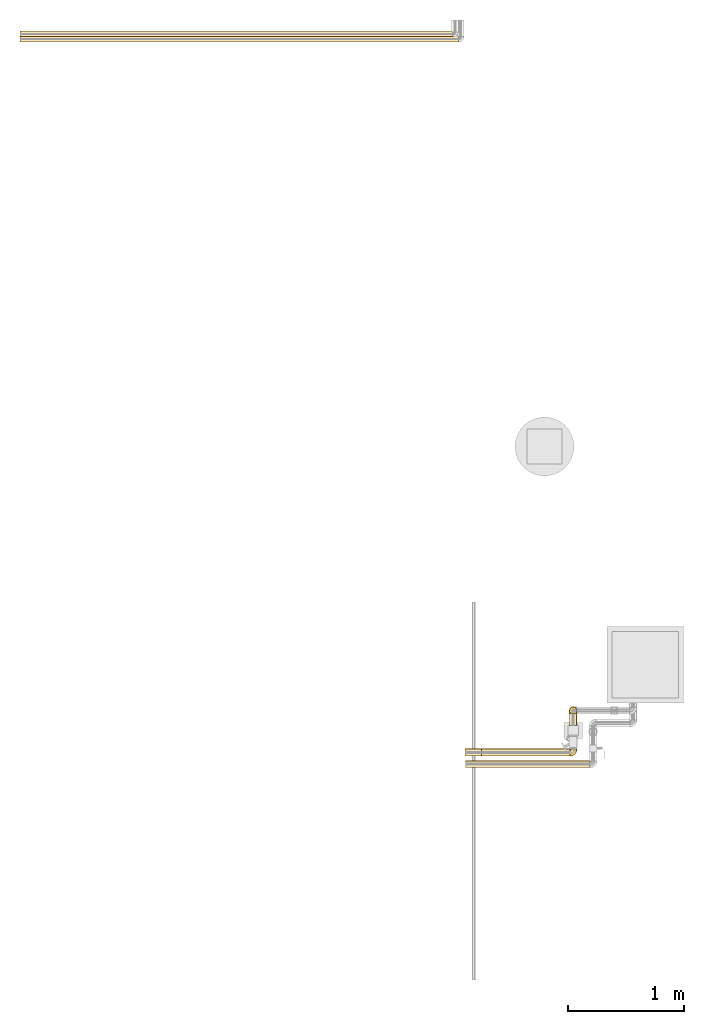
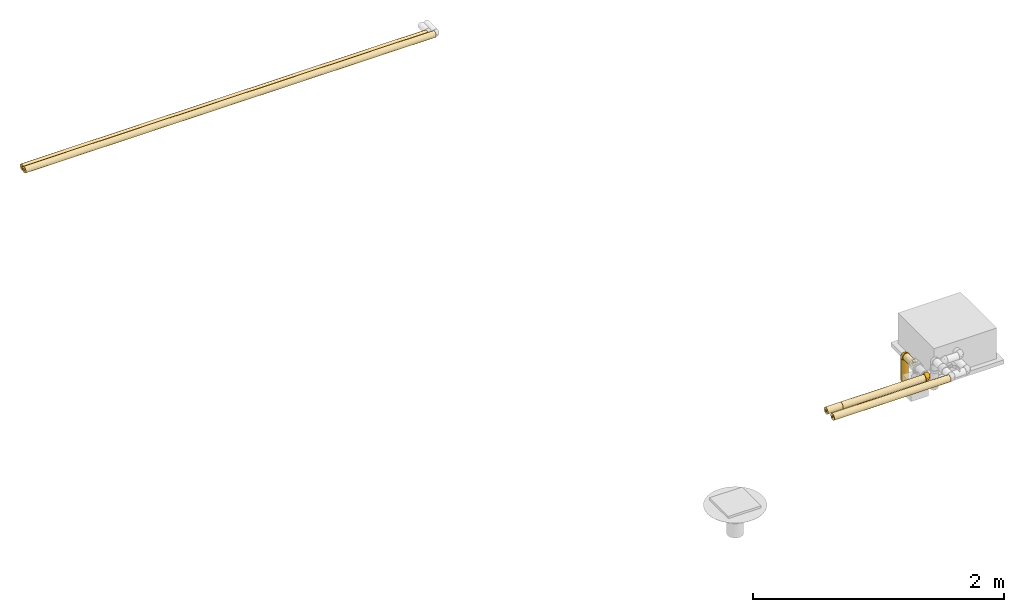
# One storey, part 1 of 13: 9 coverings.
"""IFC2X3 building model written with IfcOpenShell, lengths in millimetres."""

from ifc_helpers import new_model, entity, si_unit, converted_unit, derived_unit, direction, frame, origin_with_axes, origin_2d_with_axis, place, context, subcontext, project, spatial, hollow_circle, extrude, open_shell, surface_model, source, transform, mapped, element, save


model = new_model("IFC2X3")

# Units and contexts
model_context = context("Model", 3, precision=0.01, world=frame((0.0, 4.29681676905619e-09, 0.0)), true_north=direction((4.01073788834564e-13, 1.0)))
plan_context = context("Plan", 3, precision=0.01, world=frame((0.0, 4.29681676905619e-09, 0.0)), true_north=direction((4.01073788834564e-13, 1.0)))
body_context = subcontext(model_context, "Body", "Model", "MODEL_VIEW")
ifc_project = project(units=[converted_unit("PLANEANGLEUNIT", "DEGREE", entity("IfcPositiveLengthMeasure", 0.0174532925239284), si_unit("PLANEANGLEUNIT", "RADIAN"), dimensions=[0, 0, 0, 0, 0, 0, 0]), si_unit("AREAUNIT", "SQUARE_METRE"), si_unit("LENGTHUNIT", "METRE", prefix="MILLI"), si_unit("MASSUNIT", "GRAM", prefix="KILO"), si_unit("POWERUNIT", "WATT"), si_unit("PRESSUREUNIT", "PASCAL"), si_unit("FORCEUNIT", "NEWTON", prefix="KILO"), si_unit("ELECTRICVOLTAGEUNIT", "VOLT"), si_unit("ELECTRICCURRENTUNIT", "AMPERE"), si_unit("THERMODYNAMICTEMPERATUREUNIT", "DEGREE_CELSIUS"), si_unit("TIMEUNIT", "SECOND"), si_unit("VOLUMEUNIT", "CUBIC_METRE"), derived_unit("LINEARVELOCITYUNIT", [(si_unit("LENGTHUNIT", "METRE"), 1), (si_unit("TIMEUNIT", "SECOND"), -1)]), derived_unit("VOLUMETRICFLOWRATEUNIT", [(si_unit("VOLUMEUNIT", "CUBIC_METRE"), 1), (si_unit("TIMEUNIT", "SECOND"), -1)]), derived_unit("THERMALTRANSMITTANCEUNIT", [(si_unit("POWERUNIT", "WATT"), 1), (si_unit("THERMODYNAMICTEMPERATUREUNIT", "KELVIN"), -1), (si_unit("AREAUNIT", "SQUARE_METRE"), -1)]), derived_unit("SOUNDPRESSUREUNIT", [(si_unit("PRESSUREUNIT", "PASCAL"), 1)])], contexts=[model_context, plan_context])

# Site, building, storey
site_placement = place(None, frame((0.0, -4.29681676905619e-09, 0.0), z_axis=(0.0, 0.0, 1.0), x_axis=(1.0, 0.0, 0.0)))
site = spatial("IfcSite", under=ifc_project, at=site_placement, Name="ENGM", CompositionType="ELEMENT")
building_placement = place(site_placement, frame((0.0, 4.29681676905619e-09, 0.0), z_axis=(0.0, 0.0, 1.0), x_axis=(1.0, 0.0, 0.0)))
building = spatial("IfcBuilding", under=site, at=building_placement, Name="TI", CompositionType="ELEMENT")
storey_placement = place(building_placement, frame((0.0, 0.0, 210900.0), z_axis=(0.0, 0.0, 1.0), x_axis=(1.0, 0.0, 0.0)))
storey = spatial("IfcBuildingStorey", under=building, at=storey_placement, Name="Nivå F", CompositionType="ELEMENT", Elevation=210900.0)

# Coverings
shared_shape_1 = source(origin_with_axes(), body_context, "Body", "SurfaceModel", [
    surface_model("IfcShellBasedSurfaceModel", [(26.89082, 26.8, -21.4533), (34.4, 26.8, 0.0), (33.53665, 26.8, -7.65854), (30.99072, 26.8, -14.93103), (-26.583, 26.8, -21.83356), (21.44304, 26.8, -26.899), (14.92062, 26.8, -30.99573), (-14.70935, 26.8, -31.09655), (-21.16359, 26.8, -27.11941), (-7.53901, 26.8, -33.56372), (0.0, 26.8, -34.4), (7.65035, 26.8, -33.53852), (-26.8, 26.583, -21.83356), (-26.8, 21.15599, -27.12534), (-26.8, 14.7018, -31.10012), (-26.8, -8.90338, 33.22785), (-26.8, 26.583, 21.83356), (-26.8, 7.53379, -33.56489), (-26.8, 21.15599, 27.12534), (-26.8, 14.7018, 31.10012), (-26.8, 7.53379, 33.56489), (-26.8, 0.0, 34.4), (-26.8, -29.79127, 17.2), (-26.8, 0.0, -34.4), (-26.8, -8.90338, -33.22785), (-26.8, -17.2, -29.79127), (-26.8, -24.32447, -24.32447), (-26.8, -29.79127, -17.2), (-26.8, -34.4, 0.0), (-26.8, -33.22785, -8.90338), (-26.8, -17.2, 29.79127), (-26.8, -24.32447, 24.32447), (-26.8, -33.22785, 8.90338), (-26.64656, 26.64656, 21.83356), (-26.64656, 26.64656, -21.83356), (-26.583, 26.8, 21.83356), (-3.59052, 13.4, -34.4), (-14.33755, 14.33755, -33.15375), (-20.98278, 20.24865, -29.29104), (-13.4, 3.59052, -34.4), (23.43181, -5.85668, -9.31772), (30.59211, 12.00691, -11.36629), (29.74143, 3.37977, 0.0), (-17.35379, -5.60847, -33.68915), (-10.72157, -3.05952, -33.65653), (-2.19496, -13.46149, -27.70964), (-5.90325, -23.09189, -20.94139), (-14.44362, -19.31464, -27.29136), (-11.50632, -10.12221, -31.78146), (-19.86027, -12.55716, -31.78146), (14.5039, 8.69712, -29.13049), (17.47419, 18.2255, -29.13049), (22.70218, 14.0418, -24.32911), (-8.49526, 8.49526, -34.4), (-1.73573, 4.43438, -33.72277), (-1.40625, 21.55179, -34.4), (21.13117, -4.93531, -15.5496), (-8.95552, -31.11498, -6.38768), (-11.56328, -29.76527, -13.16431), (31.96725, 14.56973, 0.0), (-17.29059, -26.4489, -20.94139), (13.00945, -12.79913, -17.94172), (17.64372, -3.70839, -21.17899), (4.67119, 7.67803, -32.90681), (10.14945, 17.27713, -32.47124), (28.1038, 16.16713, -18.30729), (5.75988, -4.42453, -29.1208), (-1.4374, -2.65193, -32.21392), (20.41295, 4.88172, -23.35949), (24.42026, 4.35073, -18.30729), (16.40522, -14.15163, -10.5905), (-1.3824, -25.73418, -13.68663), (1.8264, -26.29935, -7.71275), (8.10398, -20.63529, -12.38525), (11.69208, -20.10273, -5.98463), (16.47493, -16.47493, 0.0), (23.10818, -6.54758, 0.0), (-14.56973, -31.96725, 0.0), (4.03594, -17.21397, -21.39036), (9.62885, -9.0633, -24.32911), (-21.55179, 1.40625, -34.4), (13.92099, -0.05311, -26.46374), (9.4576, 2.58417, -30.01827), (-3.37977, -29.74143, 0.0), (6.54758, -23.10818, 0.0), (-16.40302, -11.7882, 31.78146), (-8.96499, -31.08424, 6.55564), (10.63139, -19.08757, 11.50781), (23.44486, -5.83859, 9.31385), (22.71205, 14.04293, 24.31983), (28.11122, 16.17091, 18.29685), (26.899, 26.8, 21.44304), (-8.34799, -17.2314, 27.29136), (-13.16926, -25.54575, 20.94139), (1.60724, -19.88713, 20.19204), (14.51664, 8.70018, 29.12392), (17.4853, 18.22796, 29.12392), (10.15899, 17.27639, 32.46794), (17.02293, -8.95279, 17.25897), (-13.98179, -4.14591, 33.74209), (-13.4, 3.59052, 34.4), (-20.1, 1.79526, 34.4), (7.65854, 26.8, 33.53665), (-1.40625, 21.55179, 34.4), (-16.33213, -31.39885, 11.74535), (0.0, 26.8, 34.4), (-18.40196, -20.19695, 27.29136), (14.93103, 26.8, 30.99072), (2.37805, -25.95313, 7.88237), (-5.56785, -27.79838, 13.16431), (30.59671, 12.01158, 11.35688), (1.61546, -9.41417, 28.52205), (-9.49504, -8.67307, 31.98214), (24.43036, 4.35742, 18.29685), (21.4533, 26.8, 26.89082), (30.99573, 26.8, 14.92062), (33.53852, 26.8, 7.65035), (-8.61019, -0.7535, 33.83371), (-2.54483, 2.9265, 33.63096), (-3.59052, 13.4, 34.4), (-8.49526, 8.49526, 34.4), (18.33244, 2.77456, 24.3201), (4.67405, 7.66653, 32.90424), (-20.5196, -5.89205, 33.78227), (9.64914, -9.05591, 24.31984), (7.49925, -1.10027, 29.66678), (2.2383, -14.80321, 24.70771), (-3.35568, -4.38407, 32.15869), (-14.33836, 14.33836, 33.15344), (-20.24021, 20.9835, 29.29463), (-7.52438, 26.8, 33.567), (-14.69425, 26.8, 31.10368), (-21.15177, 26.8, 27.12863)], [open_shell([[[0, 1, 2]], [[0, 2, 3]], [[4, 0, 5]], [[0, 4, 1]], [[4, 5, 6]], [[4, 7, 8]], [[7, 4, 9]], [[10, 9, 4]], [[10, 4, 11]], [[4, 6, 11]], [[12, 13, 14]], [[15, 16, 14]], [[12, 14, 16]], [[14, 17, 15]], [[18, 16, 19]], [[16, 20, 19]], [[20, 16, 21]], [[21, 16, 15]], [[22, 17, 23]], [[24, 25, 26]], [[27, 22, 23]], [[27, 24, 26]], [[28, 27, 29]], [[30, 22, 31]], [[22, 30, 15]], [[22, 28, 32]], [[15, 17, 22]], [[27, 28, 22]], [[23, 24, 27]], [[12, 16, 33]], [[34, 12, 33]], [[35, 4, 33]], [[34, 33, 4]], [[36, 37, 9]], [[14, 38, 37]], [[23, 17, 39]], [[39, 17, 37]], [[14, 13, 38]], [[13, 12, 34]], [[34, 4, 8]], [[37, 38, 7]], [[37, 36, 39]], [[7, 9, 37]], [[9, 10, 36]], [[7, 38, 8]], [[17, 14, 37]], [[34, 8, 38]], [[34, 38, 13]], [[40, 41, 42]], [[43, 39, 44]], [[45, 46, 47]], [[48, 49, 43]], [[50, 51, 52]], [[53, 54, 44]], [[55, 10, 11]], [[41, 40, 56]], [[57, 29, 58]], [[41, 2, 59]], [[60, 27, 26]], [[25, 49, 47]], [[25, 47, 26]], [[27, 60, 58]], [[49, 25, 24]], [[61, 62, 56]], [[63, 36, 64]], [[55, 11, 64]], [[0, 3, 65]], [[52, 5, 0]], [[64, 36, 55]], [[64, 11, 6]], [[51, 64, 6]], [[66, 45, 67]], [[64, 50, 63]], [[68, 69, 62]], [[68, 52, 69]], [[61, 56, 70]], [[57, 71, 72]], [[41, 3, 2]], [[42, 41, 59]], [[69, 65, 41]], [[27, 58, 29]], [[65, 52, 0]], [[73, 74, 72]], [[5, 51, 6]], [[71, 73, 72]], [[75, 40, 76]], [[29, 57, 77]], [[61, 78, 79]], [[44, 54, 67]], [[45, 47, 48]], [[60, 47, 46]], [[24, 23, 80]], [[50, 81, 82]], [[63, 67, 54]], [[2, 1, 59]], [[41, 65, 3]], [[52, 65, 69]], [[52, 51, 5]], [[64, 51, 50]], [[67, 45, 48]], [[45, 79, 78]], [[44, 48, 43]], [[81, 66, 82]], [[77, 57, 83]], [[77, 28, 29]], [[74, 75, 84]], [[84, 83, 72]], [[57, 72, 83]], [[70, 74, 73]], [[84, 72, 74]], [[71, 57, 58]], [[58, 46, 71]], [[78, 71, 46]], [[61, 70, 73]], [[70, 40, 75]], [[73, 71, 78]], [[62, 61, 79]], [[73, 78, 61]], [[45, 78, 46]], [[81, 62, 79]], [[56, 62, 69]], [[66, 81, 79]], [[68, 50, 52]], [[45, 66, 79]], [[82, 67, 63]], [[41, 56, 69]], [[56, 40, 70]], [[62, 81, 68]], [[50, 68, 81]], [[67, 82, 66]], [[63, 54, 36]], [[63, 50, 82]], [[47, 60, 26]], [[58, 60, 46]], [[43, 24, 80]], [[47, 49, 48]], [[24, 43, 49]], [[39, 43, 80]], [[53, 44, 39]], [[67, 48, 44]], [[40, 42, 76]], [[75, 74, 70]], [[36, 54, 53]], [[30, 85, 15]], [[83, 86, 77]], [[87, 75, 88]], [[86, 32, 77]], [[89, 90, 91]], [[92, 93, 94]], [[95, 96, 97]], [[98, 94, 87]], [[99, 100, 101]], [[102, 103, 97]], [[104, 93, 22]], [[102, 105, 103]], [[31, 106, 30]], [[30, 106, 85]], [[107, 102, 97]], [[108, 87, 109]], [[88, 42, 110]], [[92, 111, 112]], [[113, 90, 89]], [[114, 89, 91]], [[32, 86, 104]], [[110, 115, 90]], [[110, 59, 116]], [[114, 107, 96]], [[99, 117, 100]], [[118, 119, 120]], [[121, 113, 89]], [[95, 97, 122]], [[97, 119, 122]], [[115, 110, 116]], [[22, 93, 31]], [[96, 89, 114]], [[88, 110, 113]], [[121, 89, 95]], [[88, 98, 87]], [[115, 91, 90]], [[88, 75, 76]], [[119, 97, 103]], [[85, 99, 123]], [[124, 125, 111]], [[125, 95, 122]], [[94, 93, 109]], [[106, 93, 92]], [[120, 117, 118]], [[125, 124, 121]], [[87, 94, 109]], [[126, 124, 111]], [[108, 109, 86]], [[88, 113, 98]], [[59, 110, 42]], [[59, 1, 116]], [[15, 123, 21]], [[110, 90, 113]], [[97, 96, 107]], [[89, 96, 95]], [[118, 125, 122]], [[117, 120, 100]], [[111, 125, 127]], [[32, 28, 77]], [[84, 108, 83]], [[86, 109, 104]], [[87, 84, 75]], [[83, 108, 86]], [[84, 87, 108]], [[93, 104, 109]], [[22, 32, 104]], [[123, 99, 101]], [[112, 99, 85]], [[121, 98, 113]], [[94, 98, 124]], [[21, 123, 101]], [[85, 123, 15]], [[125, 121, 95]], [[98, 121, 124]], [[112, 111, 127]], [[126, 92, 94]], [[93, 106, 31]], [[85, 106, 92]], [[92, 112, 85]], [[117, 112, 127]], [[112, 117, 99]], [[117, 127, 118]], [[125, 118, 127]], [[119, 118, 122]], [[92, 126, 111]], [[94, 124, 126]], [[76, 42, 88]], [[20, 21, 100]], [[20, 128, 19]], [[19, 128, 129]], [[16, 18, 33]], [[119, 128, 100]], [[119, 105, 130]], [[20, 100, 128]], [[129, 33, 18]], [[129, 128, 131]], [[132, 35, 33]], [[33, 129, 132]], [[19, 129, 18]], [[130, 131, 128]], [[119, 130, 128]], [[131, 132, 129]], [[107, 114, 91]], [[4, 91, 115]], [[107, 91, 102]], [[91, 4, 130]], [[105, 102, 130]], [[102, 91, 130]], [[4, 115, 116]], [[1, 4, 116]], [[130, 132, 131]], [[35, 132, 4]], [[132, 130, 4]]])]),
])
covering_1_placement = place(storey_placement, frame((610086.18538, 691600.60738, 2740.0), z_axis=(-1.0, 0.0, 0.0), x_axis=(0.0, 1.0, 0.0)))
element("IfcCovering", 1, at=covering_1_placement, inside=storey, Name="BI10T - Cellegummi 18-32 mm kalde rør", PredefinedType="INSULATION", context=body_context, shape_type="MappedRepresentation", body=[
    mapped(shared_shape_1, transform((0.0, 0.0, 0.0), scale=1.0)),
])
shared_shape_2 = source(origin_with_axes(), body_context, "Body", "SweptSolid", [
    extrude(hollow_circle(Radius=31.0, WallThickness=21.0, at=origin_2d_with_axis()), frame((0.0, 0.0, 0.0), z_axis=(1.0, 0.0, 0.0), x_axis=(0.0, 1.0, 0.0)), (0.0, 0.0, 1.0), 762.8),
])
covering_2_placement = place(storey_placement, frame((609296.5743, 691241.97914, 2740.0), z_axis=(0.0, 0.0, 1.0), x_axis=(1.0, 0.0, 0.0)))
element("IfcCovering", 2, at=covering_2_placement, inside=storey, Name="BI10T - Cellegummi 18-32 mm kalde rør", PredefinedType="INSULATION", context=body_context, shape_type="MappedRepresentation", body=[
    mapped(shared_shape_2, transform((0.0, 0.0, 0.0), scale=1.0)),
])
shared_shape_3 = source(origin_with_axes(), body_context, "Body", "SweptSolid", [
    extrude(hollow_circle(Radius=31.0, WallThickness=21.0, at=origin_2d_with_axis()), frame((0.0, 0.0, 0.0), z_axis=(1.0, 0.0, 0.0), x_axis=(0.0, 1.0, 0.0)), (0.0, 0.0, 1.0), 1071.7),
])
covering_3_placement = place(storey_placement, frame((609158.7743, 691141.97914, 2740.0), z_axis=(0.0, 0.0, 1.0), x_axis=(1.0, 0.0, 0.0)))
element("IfcCovering", 3, at=covering_3_placement, inside=storey, Name="BI10T - Cellegummi 18-32 mm kalde rør", PredefinedType="INSULATION", context=body_context, shape_type="MappedRepresentation", body=[
    mapped(shared_shape_3, transform((0.0, 0.0, 0.0), scale=1.0)),
])
shared_shape_4 = source(origin_with_axes(), body_context, "Body", "SurfaceModel", [
    surface_model("IfcShellBasedSurfaceModel", [(-14.69425, 26.8, 31.10368), (-26.583, 26.8, 21.83356), (-21.15177, 26.8, 27.12863), (-7.52438, 26.8, 33.567), (-26.583, 26.8, -21.83356), (26.89082, 26.8, -21.4533), (34.4, 26.8, 0.0), (33.53665, 26.8, -7.65854), (30.99072, 26.8, -14.93103), (21.44304, 26.8, -26.899), (14.92062, 26.8, -30.99573), (-14.70935, 26.8, -31.09655), (-21.16359, 26.8, -27.11941), (-7.53901, 26.8, -33.56372), (0.0, 26.8, -34.4), (7.65035, 26.8, -33.53852), (-26.8, 26.583, -21.83356), (-26.8, 21.15599, -27.12534), (-26.8, 14.7018, -31.10012), (-26.8, -8.90338, 33.22785), (-26.8, 26.583, 21.83356), (-26.8, 7.53379, -33.56489), (-26.8, 21.15599, 27.12534), (-26.8, 14.7018, 31.10012), (-26.8, 7.53379, 33.56489), (-26.8, 0.0, 34.4), (-26.8, -29.79127, 17.2), (-26.8, 0.0, -34.4), (-26.8, -8.90338, -33.22785), (-26.8, -17.2, -29.79127), (-26.8, -24.32447, -24.32447), (-26.8, -29.79127, -17.2), (-26.8, -34.4, 0.0), (-26.8, -33.22785, -8.90338), (-26.8, -17.2, 29.79127), (-26.8, -24.32447, 24.32447), (-26.8, -33.22785, 8.90338), (-26.64656, 26.64656, 21.83356), (-26.64656, 26.64656, -21.83356), (-3.59052, 13.4, -34.4), (-14.33755, 14.33755, -33.15375), (-20.98278, 20.24865, -29.29104), (-13.4, 3.59052, -34.4), (23.43181, -5.85668, -9.31772), (30.59211, 12.00691, -11.36629), (29.74143, 3.37977, 0.0), (-17.35379, -5.60847, -33.68915), (-10.72157, -3.05952, -33.65653), (-2.19496, -13.46149, -27.70964), (-5.90325, -23.09189, -20.94139), (-14.44362, -19.31464, -27.29136), (-11.50632, -10.12221, -31.78146), (-19.86027, -12.55716, -31.78146), (14.5039, 8.69712, -29.13049), (17.47419, 18.2255, -29.13049), (22.70218, 14.0418, -24.32911), (-8.49526, 8.49526, -34.4), (-1.73573, 4.43438, -33.72277), (-1.40625, 21.55179, -34.4), (21.13117, -4.93531, -15.5496), (-8.95552, -31.11498, -6.38768), (-11.56328, -29.76527, -13.16431), (31.96725, 14.56973, 0.0), (-17.29059, -26.4489, -20.94139), (13.00945, -12.79913, -17.94172), (17.64372, -3.70839, -21.17899), (4.67119, 7.67803, -32.90681), (10.14945, 17.27713, -32.47124), (28.1038, 16.16713, -18.30729), (5.75988, -4.42453, -29.1208), (-1.4374, -2.65193, -32.21392), (20.41295, 4.88172, -23.35949), (24.42026, 4.35073, -18.30729), (16.40522, -14.15163, -10.5905), (-1.3824, -25.73418, -13.68663), (1.8264, -26.29935, -7.71275), (8.10398, -20.63529, -12.38525), (11.69208, -20.10273, -5.98463), (16.47493, -16.47493, 0.0), (23.10818, -6.54758, 0.0), (-14.56973, -31.96725, 0.0), (4.03594, -17.21397, -21.39036), (9.62885, -9.0633, -24.32911), (-21.55179, 1.40625, -34.4), (13.92099, -0.05311, -26.46374), (9.4576, 2.58417, -30.01827), (-3.37977, -29.74143, 0.0), (6.54758, -23.10818, 0.0), (-16.40302, -11.7882, 31.78146), (-8.96499, -31.08424, 6.55564), (10.63139, -19.08757, 11.50781), (23.44486, -5.83859, 9.31385), (22.71205, 14.04293, 24.31983), (28.11122, 16.17091, 18.29685), (26.899, 26.8, 21.44304), (-8.34799, -17.2314, 27.29136), (-13.16926, -25.54575, 20.94139), (1.60724, -19.88713, 20.19204), (14.51664, 8.70018, 29.12392), (17.4853, 18.22796, 29.12392), (10.15899, 17.27639, 32.46794), (17.02293, -8.95279, 17.25897), (-13.98179, -4.14591, 33.74209), (-13.4, 3.59052, 34.4), (-20.1, 1.79526, 34.4), (7.65854, 26.8, 33.53665), (-1.40625, 21.55179, 34.4), (-16.33213, -31.39885, 11.74535), (0.0, 26.8, 34.4), (-18.40196, -20.19695, 27.29136), (14.93103, 26.8, 30.99072), (2.37805, -25.95313, 7.88237), (-5.56785, -27.79838, 13.16431), (30.59671, 12.01158, 11.35688), (1.61546, -9.41417, 28.52205), (-9.49504, -8.67307, 31.98214), (24.43036, 4.35742, 18.29685), (21.4533, 26.8, 26.89082), (30.99573, 26.8, 14.92062), (33.53852, 26.8, 7.65035), (-8.61019, -0.7535, 33.83371), (-2.54483, 2.9265, 33.63096), (-3.59052, 13.4, 34.4), (-8.49526, 8.49526, 34.4), (18.33244, 2.77456, 24.3201), (4.67405, 7.66653, 32.90424), (-20.5196, -5.89205, 33.78227), (9.64914, -9.05591, 24.31984), (7.49925, -1.10027, 29.66678), (2.2383, -14.80321, 24.70771), (-3.35568, -4.38407, 32.15869), (-14.33836, 14.33836, 33.15344), (-20.24021, 20.9835, 29.29463)], [open_shell([[[0, 1, 2]], [[1, 0, 3]], [[3, 4, 1]], [[5, 6, 7]], [[5, 7, 8]], [[4, 5, 9]], [[5, 4, 6]], [[4, 9, 10]], [[4, 11, 12]], [[11, 4, 13]], [[14, 13, 4]], [[14, 4, 15]], [[4, 10, 15]], [[16, 17, 18]], [[19, 20, 18]], [[16, 18, 20]], [[18, 21, 19]], [[22, 20, 23]], [[20, 24, 23]], [[24, 20, 25]], [[25, 20, 19]], [[26, 21, 27]], [[28, 29, 30]], [[31, 26, 27]], [[31, 28, 30]], [[32, 31, 33]], [[34, 26, 35]], [[26, 34, 19]], [[26, 32, 36]], [[19, 21, 26]], [[31, 32, 26]], [[27, 28, 31]], [[16, 20, 37]], [[38, 16, 37]], [[1, 4, 37]], [[38, 37, 4]], [[39, 40, 13]], [[18, 41, 40]], [[27, 21, 42]], [[42, 21, 40]], [[18, 17, 41]], [[17, 16, 38]], [[38, 4, 12]], [[40, 41, 11]], [[40, 39, 42]], [[11, 13, 40]], [[13, 14, 39]], [[11, 41, 12]], [[21, 18, 40]], [[38, 12, 41]], [[38, 41, 17]], [[43, 44, 45]], [[46, 42, 47]], [[48, 49, 50]], [[51, 52, 46]], [[53, 54, 55]], [[56, 57, 47]], [[58, 14, 15]], [[44, 43, 59]], [[60, 33, 61]], [[44, 7, 62]], [[63, 31, 30]], [[29, 52, 50]], [[29, 50, 30]], [[31, 63, 61]], [[52, 29, 28]], [[64, 65, 59]], [[66, 39, 67]], [[58, 15, 67]], [[5, 8, 68]], [[55, 9, 5]], [[67, 39, 58]], [[67, 15, 10]], [[54, 67, 10]], [[69, 48, 70]], [[67, 53, 66]], [[71, 72, 65]], [[71, 55, 72]], [[64, 59, 73]], [[60, 74, 75]], [[44, 8, 7]], [[45, 44, 62]], [[72, 68, 44]], [[31, 61, 33]], [[68, 55, 5]], [[76, 77, 75]], [[9, 54, 10]], [[74, 76, 75]], [[78, 43, 79]], [[33, 60, 80]], [[64, 81, 82]], [[47, 57, 70]], [[48, 50, 51]], [[63, 50, 49]], [[28, 27, 83]], [[53, 84, 85]], [[66, 70, 57]], [[7, 6, 62]], [[44, 68, 8]], [[55, 68, 72]], [[55, 54, 9]], [[67, 54, 53]], [[70, 48, 51]], [[48, 82, 81]], [[47, 51, 46]], [[84, 69, 85]], [[80, 60, 86]], [[80, 32, 33]], [[77, 78, 87]], [[87, 86, 75]], [[60, 75, 86]], [[73, 77, 76]], [[87, 75, 77]], [[74, 60, 61]], [[61, 49, 74]], [[81, 74, 49]], [[64, 73, 76]], [[73, 43, 78]], [[76, 74, 81]], [[65, 64, 82]], [[76, 81, 64]], [[48, 81, 49]], [[84, 65, 82]], [[59, 65, 72]], [[69, 84, 82]], [[71, 53, 55]], [[48, 69, 82]], [[85, 70, 66]], [[44, 59, 72]], [[59, 43, 73]], [[65, 84, 71]], [[53, 71, 84]], [[70, 85, 69]], [[66, 57, 39]], [[66, 53, 85]], [[50, 63, 30]], [[61, 63, 49]], [[46, 28, 83]], [[50, 52, 51]], [[28, 46, 52]], [[42, 46, 83]], [[56, 47, 42]], [[70, 51, 47]], [[43, 45, 79]], [[78, 77, 73]], [[39, 57, 56]], [[34, 88, 19]], [[86, 89, 80]], [[90, 78, 91]], [[89, 36, 80]], [[92, 93, 94]], [[95, 96, 97]], [[98, 99, 100]], [[101, 97, 90]], [[102, 103, 104]], [[105, 106, 100]], [[107, 96, 26]], [[105, 108, 106]], [[35, 109, 34]], [[34, 109, 88]], [[110, 105, 100]], [[111, 90, 112]], [[91, 45, 113]], [[95, 114, 115]], [[116, 93, 92]], [[117, 92, 94]], [[36, 89, 107]], [[113, 118, 93]], [[113, 62, 119]], [[117, 110, 99]], [[102, 120, 103]], [[121, 122, 123]], [[124, 116, 92]], [[98, 100, 125]], [[100, 122, 125]], [[118, 113, 119]], [[26, 96, 35]], [[99, 92, 117]], [[91, 113, 116]], [[124, 92, 98]], [[91, 101, 90]], [[118, 94, 93]], [[91, 78, 79]], [[122, 100, 106]], [[88, 102, 126]], [[127, 128, 114]], [[128, 98, 125]], [[97, 96, 112]], [[109, 96, 95]], [[123, 120, 121]], [[128, 127, 124]], [[90, 97, 112]], [[129, 127, 114]], [[111, 112, 89]], [[91, 116, 101]], [[62, 113, 45]], [[62, 6, 119]], [[19, 126, 25]], [[113, 93, 116]], [[100, 99, 110]], [[92, 99, 98]], [[121, 128, 125]], [[120, 123, 103]], [[114, 128, 130]], [[36, 32, 80]], [[87, 111, 86]], [[89, 112, 107]], [[90, 87, 78]], [[86, 111, 89]], [[87, 90, 111]], [[96, 107, 112]], [[26, 36, 107]], [[126, 102, 104]], [[115, 102, 88]], [[124, 101, 116]], [[97, 101, 127]], [[25, 126, 104]], [[88, 126, 19]], [[128, 124, 98]], [[101, 124, 127]], [[115, 114, 130]], [[129, 95, 97]], [[96, 109, 35]], [[88, 109, 95]], [[95, 115, 88]], [[120, 115, 130]], [[115, 120, 102]], [[120, 130, 121]], [[128, 121, 130]], [[122, 121, 125]], [[95, 129, 114]], [[97, 127, 129]], [[79, 45, 91]], [[24, 25, 103]], [[24, 131, 23]], [[23, 131, 132]], [[20, 22, 37]], [[122, 131, 103]], [[122, 108, 3]], [[24, 103, 131]], [[132, 37, 22]], [[132, 131, 0]], [[2, 1, 37]], [[37, 132, 2]], [[23, 132, 22]], [[3, 0, 131]], [[122, 3, 131]], [[0, 2, 132]], [[110, 117, 94]], [[4, 94, 118]], [[110, 94, 105]], [[94, 4, 3]], [[108, 105, 3]], [[105, 94, 3]], [[4, 118, 119]], [[6, 4, 119]]])]),
])
covering_4_placement = place(storey_placement, frame((610086.18538, 691241.97914, 2740.0), z_axis=(0.0, 0.0, 1.0), x_axis=(1.0, 0.0, 0.0)))
element("IfcCovering", 4, at=covering_4_placement, inside=storey, Name="BI10T - Cellegummi 18-32 mm kalde rør", PredefinedType="INSULATION", context=body_context, shape_type="MappedRepresentation", body=[
    mapped(shared_shape_4, transform((0.0, 0.0, 0.0), scale=1.0)),
])
shared_shape_5 = source(origin_with_axes(), body_context, "Body", "SweptSolid", [
    extrude(hollow_circle(Radius=29.0, WallThickness=20.0, at=origin_2d_with_axis()), frame((0.0, 0.0, 0.0), z_axis=(1.0, 0.0, 0.0), x_axis=(0.0, 1.0, 0.0)), (0.0, 0.0, 1.0), 3722.0),
])
covering_5_placement = place(storey_placement, frame((609051.65402, 697419.51267, 2700.0), z_axis=(0.0, 0.0, 1.0), x_axis=(-1.0, 0.0, 0.0)))
element("IfcCovering", 5, at=covering_5_placement, inside=storey, Name="BI10T - Cellegummi 18-32 mm kalde rør", PredefinedType="INSULATION", context=body_context, shape_type="MappedRepresentation", body=[
    mapped(shared_shape_5, transform((0.0, 0.0, 0.0), scale=1.0)),
])
shared_shape_6 = source(origin_with_axes(), body_context, "Body", "SweptSolid", [
    extrude(hollow_circle(Radius=29.0, WallThickness=20.0, at=origin_2d_with_axis()), frame((0.0, 0.0, 0.0), z_axis=(1.0, 0.0, 0.0), x_axis=(0.0, 1.0, 0.0)), (0.0, 0.0, 1.0), 3772.0),
])
covering_6_placement = place(storey_placement, frame((609099.81817, 697379.51267, 2700.0), z_axis=(0.0, 0.0, 1.0), x_axis=(-1.0, 0.0, 0.0)))
element("IfcCovering", 6, at=covering_6_placement, inside=storey, Name="BI10T - Cellegummi 18-32 mm kalde rør", PredefinedType="INSULATION", context=body_context, shape_type="MappedRepresentation", body=[
    mapped(shared_shape_6, transform((0.0, 0.0, 0.0), scale=1.0)),
])
shared_shape_7 = source(origin_with_axes(), body_context, "Body", "SweptSolid", [
    extrude(hollow_circle(Radius=31.0, WallThickness=21.0, at=origin_2d_with_axis()), frame((0.0, 0.0, 0.0), z_axis=(1.0, 0.0, 0.0), x_axis=(0.0, 1.0, 0.0)), (0.0, 0.0, 1.0), 140.0),
])
covering_7_placement = place(storey_placement, frame((609156.5743, 691241.97914, 2740.0), z_axis=(0.0, 0.0, 1.0), x_axis=(1.0, 0.0, 0.0)))
element("IfcCovering", 7, at=covering_7_placement, inside=storey, Name="BI10T - Cellegummi 18-32 mm kalde rør", PredefinedType="INSULATION", context=body_context, shape_type="MappedRepresentation", body=[
    mapped(shared_shape_7, transform((0.0, 0.0, 0.0), scale=1.0)),
])
shared_shape_8 = source(origin_with_axes(), body_context, "Body", "SweptSolid", [
    extrude(hollow_circle(Radius=31.0, WallThickness=21.0, at=origin_2d_with_axis()), frame((0.0, 0.0, 0.0), z_axis=(1.0, 0.0, 0.0), x_axis=(0.0, 1.0, 0.0)), (0.0, 0.0, 1.0), 103.2),
])
covering_8_placement = place(storey_placement, frame((610086.18538, 691470.60738, 2740.0), z_axis=(0.0, 0.0, 1.0), x_axis=(0.0, 1.0, 0.0)))
element("IfcCovering", 8, at=covering_8_placement, inside=storey, Name="BI10T - Cellegummi 18-32 mm kalde rør", PredefinedType="INSULATION", context=body_context, shape_type="MappedRepresentation", body=[
    mapped(shared_shape_8, transform((0.0, 0.0, 0.0), scale=1.0)),
])
shared_shape_9 = source(origin_with_axes(), body_context, "Body", "SweptSolid", [
    extrude(hollow_circle(Radius=31.0, WallThickness=21.0, at=origin_2d_with_axis()), frame((0.0, 0.0, 0.0), z_axis=(1.0, 0.0, 0.0), x_axis=(0.0, 1.0, 0.0)), (0.0, 0.0, 1.0), 211.4),
])
covering_9_placement = place(storey_placement, frame((610086.18538, 691600.60738, 2713.20000000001), z_axis=(1.0, 0.0, 0.0), x_axis=(0.0, 0.0, -1.0)))
element("IfcCovering", 9, at=covering_9_placement, inside=storey, Name="BI10T - Cellegummi 18-32 mm kalde rør", PredefinedType="INSULATION", context=body_context, shape_type="MappedRepresentation", body=[
    mapped(shared_shape_9, transform((0.0, 0.0, 0.0), scale=1.0)),
])

save(model, "model.ifc")
